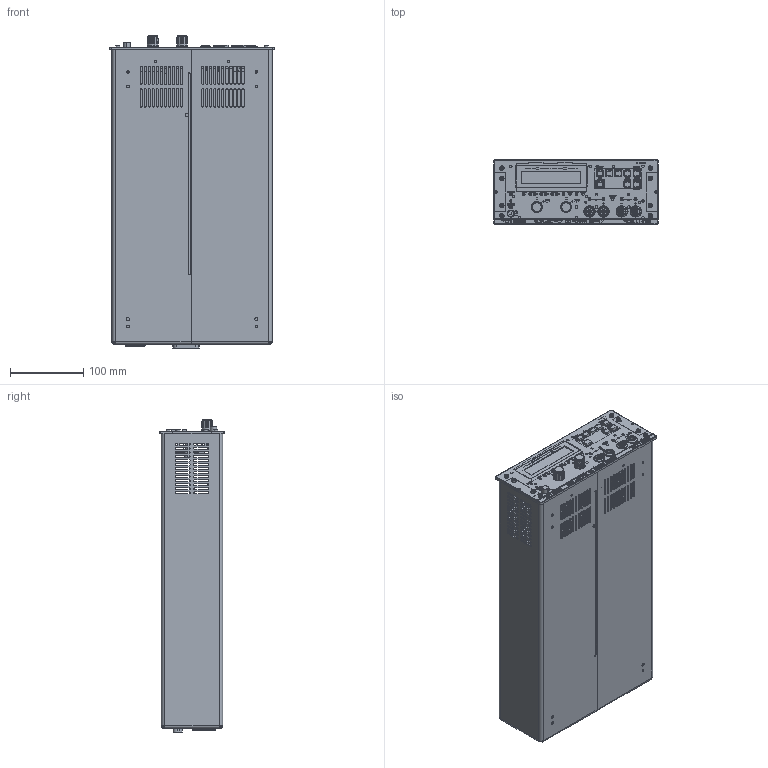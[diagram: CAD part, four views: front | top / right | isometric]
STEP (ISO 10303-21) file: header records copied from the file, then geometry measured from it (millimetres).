
FILE_DESCRIPTION (( 'STEP AP214' ), '1' );
FILE_NAME ('TOE 8952_3d.STEP', '2017-04-05T12:40:20', ( 'KL_' ), ( '' ), 'SwSTEP 2.0', 'SolidWorks 2015', '' );
FILE_SCHEMA (( 'AUTOMOTIVE_DESIGN' ));
Length unit declared in the file: millimetre
Products named in the file (1): TOE 8952_3d
Bounding box: 224 x 88 x 425.97 mm (x, y, z)
Surface area: 688536.1 mm2 (no closed solid volume)
Topology: 0 solids, 404 shells, 1999 faces, 9285 edges, 7591 vertices
Faces by surface type: plane 1134, cylinder 642, cone 118, bspline 60, torus 41, sphere 4
Entity records: 131125 total; most frequent: CARTESIAN_POINT 36008, DIRECTION 14278, ORIENTED_EDGE 12708, EDGE_CURVE 9261, VERTEX_POINT 7587, VECTOR 5808, LINE 5808, AXIS2_PLACEMENT_3D 4235
